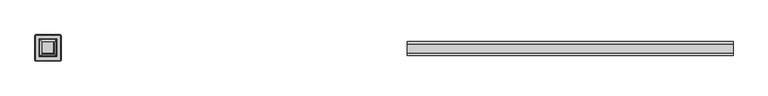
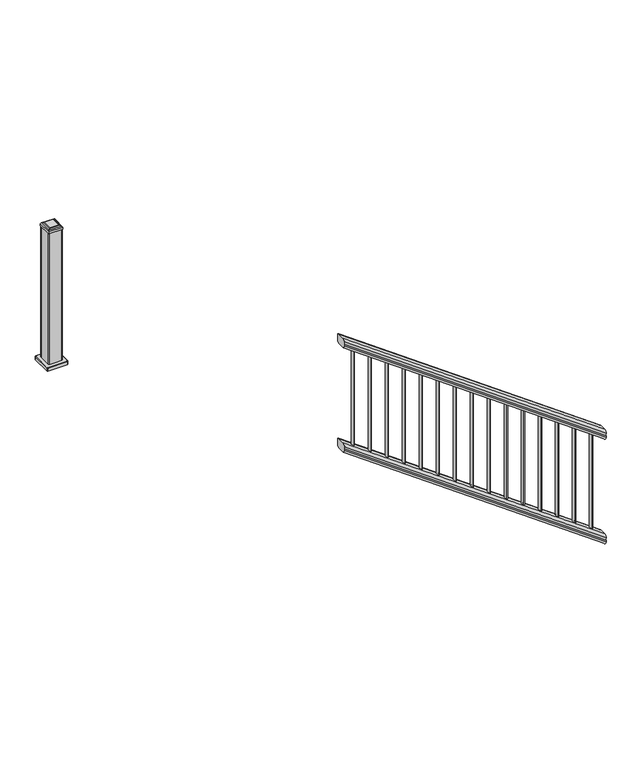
"""IFC4 building model written with IfcOpenShell, lengths in millimetres: railing geometry, NewTechWood - Westminister Gray."""

from ifc_helpers import new_model, si_unit, point, frame, frame_2d, origin, place, context, project, spatial, polyline, circle_curve, ellipse_curve, trimmed, segment, composite_curve, outline, extrude, faceted_brep, source, transform, mapped, element, save
from ifc_brep_helpers import plane_surface, cylinder_surface, revolved_surface, advanced_brep


def railing_2653ac28(model_context):
    return source(origin(), model_context, "Body", "SolidModel", [
        advanced_brep(
        [(-12132.4290808, 7792.1266677, 1489.4019141), (-12132.4290808, 7772.9266677, 1489.4019141), (-12132.4290808, 7772.9266677, 785.3019141), (-12132.4290808, 7792.1266677, 785.3019141)],
        [
            (0, 1, ellipse_curve(frame((-12132.4290808, 7782.5266677, 1489.4019141), z_axis=(0.5837829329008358, 0.0, 0.8119097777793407), x_axis=(-0.8119097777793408, 0.0, 0.5837829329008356)), 11.8239739, 9.6)),
            (1, 0, ellipse_curve(frame((-12132.4290808, 7782.5266677, 1489.4019141), z_axis=(0.5837829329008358, 0.0, 0.8119097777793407), x_axis=(-0.8119097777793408, 0.0, 0.5837829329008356)), 11.8239739, 9.6)),
            (2, 3, ellipse_curve(frame((-12132.4290808, 7782.5266677, 785.3019141), z_axis=(-0.5837829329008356, 0.0, -0.8119097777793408), x_axis=(-0.8119097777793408, 0.0, 0.5837829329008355)), 11.8239739, 9.6)),
            (3, 2, ellipse_curve(frame((-12132.4290808, 7782.5266677, 785.3019141), z_axis=(-0.5837829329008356, 0.0, -0.8119097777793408), x_axis=(-0.8119097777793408, 0.0, 0.5837829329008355)), 11.8239739, 9.6)),
            (0, 3),
            (2, 1),
        ],
        [
            plane_surface(frame((-13397.671938, 7532.5266677, 2399.142388), z_axis=(0.5837829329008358, 0.0, 0.8119097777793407), x_axis=(0.0, 1.0, 0.0))),
            plane_surface(frame((-11568.671938, 7532.5266677, 379.9467782), z_axis=(-0.5837829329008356, 0.0, -0.8119097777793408), x_axis=(0.0, 1.0, 0.0))),
            cylinder_surface(frame((-12132.4290808, 7782.5266677, 882.4945831), z_axis=(0.0, 0.0, 1.0), x_axis=(0.0, -1.0, 0.0)), 9.6),
        ],
        [
            (0, [[1, 2]]),
            (1, [[3, 4]]),
            (2, [[5, -3, 6, -1]]),
            (2, [[-5, -2, -6, -4]]),
        ],
    ),
        advanced_brep(
        [(-12249.3433665, 7792.1266677, 1573.4661371), (-12249.3433665, 7772.9266677, 1573.4661371), (-12249.3433665, 7772.9266677, 869.3661371), (-12249.3433665, 7792.1266677, 869.3661371)],
        [
            (0, 1, ellipse_curve(frame((-12249.3433665, 7782.5266677, 1573.4661371), z_axis=(0.5837829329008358, 0.0, 0.8119097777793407), x_axis=(-0.8119097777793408, 0.0, 0.5837829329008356)), 11.8239739, 9.6)),
            (1, 0, ellipse_curve(frame((-12249.3433665, 7782.5266677, 1573.4661371), z_axis=(0.5837829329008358, 0.0, 0.8119097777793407), x_axis=(-0.8119097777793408, 0.0, 0.5837829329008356)), 11.8239739, 9.6)),
            (2, 3, ellipse_curve(frame((-12249.3433665, 7782.5266677, 869.3661371), z_axis=(-0.5837829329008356, 0.0, -0.8119097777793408), x_axis=(-0.8119097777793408, 0.0, 0.5837829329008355)), 11.8239739, 9.6)),
            (3, 2, ellipse_curve(frame((-12249.3433665, 7782.5266677, 869.3661371), z_axis=(-0.5837829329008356, 0.0, -0.8119097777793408), x_axis=(-0.8119097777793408, 0.0, 0.5837829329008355)), 11.8239739, 9.6)),
            (0, 3),
            (2, 1),
        ],
        [
            plane_surface(frame((-13397.671938, 7532.5266677, 2399.142388), z_axis=(0.5837829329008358, 0.0, 0.8119097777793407), x_axis=(0.0, 1.0, 0.0))),
            plane_surface(frame((-11568.671938, 7532.5266677, 379.9467782), z_axis=(-0.5837829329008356, 0.0, -0.8119097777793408), x_axis=(0.0, 1.0, 0.0))),
            cylinder_surface(frame((-12249.3433665, 7782.5266677, 882.4945831), z_axis=(0.0, 0.0, 1.0), x_axis=(0.0, -1.0, 0.0)), 9.6),
        ],
        [
            (0, [[1, 2]]),
            (1, [[3, 4]]),
            (2, [[5, -3, 6, -1]]),
            (2, [[-5, -2, -6, -4]]),
        ],
    ),
        advanced_brep(
        [(-12366.2576522, 7792.1266677, 1657.5303601), (-12366.2576522, 7772.9266677, 1657.5303601), (-12366.2576522, 7772.9266677, 953.4303601), (-12366.2576522, 7792.1266677, 953.4303601)],
        [
            (0, 1, ellipse_curve(frame((-12366.2576522, 7782.5266677, 1657.5303601), z_axis=(0.5837829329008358, 0.0, 0.8119097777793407), x_axis=(-0.8119097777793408, 0.0, 0.5837829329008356)), 11.8239739, 9.6)),
            (1, 0, ellipse_curve(frame((-12366.2576522, 7782.5266677, 1657.5303601), z_axis=(0.5837829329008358, 0.0, 0.8119097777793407), x_axis=(-0.8119097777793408, 0.0, 0.5837829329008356)), 11.8239739, 9.6)),
            (2, 3, ellipse_curve(frame((-12366.2576522, 7782.5266677, 953.4303601), z_axis=(-0.5837829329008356, 0.0, -0.8119097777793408), x_axis=(-0.8119097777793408, 0.0, 0.5837829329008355)), 11.8239739, 9.6)),
            (3, 2, ellipse_curve(frame((-12366.2576522, 7782.5266677, 953.4303601), z_axis=(-0.5837829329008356, 0.0, -0.8119097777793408), x_axis=(-0.8119097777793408, 0.0, 0.5837829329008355)), 11.8239739, 9.6)),
            (0, 3),
            (2, 1),
        ],
        [
            plane_surface(frame((-13397.671938, 7532.5266677, 2399.142388), z_axis=(0.5837829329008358, 0.0, 0.8119097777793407), x_axis=(0.0, 1.0, 0.0))),
            plane_surface(frame((-11568.671938, 7532.5266677, 379.9467782), z_axis=(-0.5837829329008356, 0.0, -0.8119097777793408), x_axis=(0.0, 1.0, 0.0))),
            cylinder_surface(frame((-12366.2576522, 7782.5266677, 882.4945831), z_axis=(0.0, 0.0, 1.0), x_axis=(0.0, -1.0, 0.0)), 9.6),
        ],
        [
            (0, [[1, 2]]),
            (1, [[3, 4]]),
            (2, [[5, -3, 6, -1]]),
            (2, [[-5, -2, -6, -4]]),
        ],
    ),
        advanced_brep(
        [(-12483.171938, 7792.1266677, 1741.5945831), (-12483.171938, 7772.9266677, 1741.5945831), (-12483.171938, 7772.9266677, 1037.4945831), (-12483.171938, 7792.1266677, 1037.4945831)],
        [
            (0, 1, ellipse_curve(frame((-12483.171938, 7782.5266677, 1741.5945831), z_axis=(0.5837829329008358, 0.0, 0.8119097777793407), x_axis=(-0.8119097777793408, 0.0, 0.5837829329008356)), 11.8239739, 9.6)),
            (1, 0, ellipse_curve(frame((-12483.171938, 7782.5266677, 1741.5945831), z_axis=(0.5837829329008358, 0.0, 0.8119097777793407), x_axis=(-0.8119097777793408, 0.0, 0.5837829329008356)), 11.8239739, 9.6)),
            (2, 3, ellipse_curve(frame((-12483.171938, 7782.5266677, 1037.4945831), z_axis=(-0.5837829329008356, 0.0, -0.8119097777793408), x_axis=(-0.8119097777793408, 0.0, 0.5837829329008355)), 11.8239739, 9.6)),
            (3, 2, ellipse_curve(frame((-12483.171938, 7782.5266677, 1037.4945831), z_axis=(-0.5837829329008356, 0.0, -0.8119097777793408), x_axis=(-0.8119097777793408, 0.0, 0.5837829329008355)), 11.8239739, 9.6)),
            (0, 3),
            (2, 1),
        ],
        [
            plane_surface(frame((-13397.671938, 7532.5266677, 2399.142388), z_axis=(0.5837829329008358, 0.0, 0.8119097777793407), x_axis=(0.0, 1.0, 0.0))),
            plane_surface(frame((-11568.671938, 7532.5266677, 379.9467782), z_axis=(-0.5837829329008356, 0.0, -0.8119097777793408), x_axis=(0.0, 1.0, 0.0))),
            cylinder_surface(frame((-12483.171938, 7782.5266677, 882.4945831), z_axis=(0.0, 0.0, 1.0), x_axis=(0.0, -1.0, 0.0)), 9.6),
        ],
        [
            (0, [[1, 2]]),
            (1, [[3, 4]]),
            (2, [[5, -3, 6, -1]]),
            (2, [[-5, -2, -6, -4]]),
        ],
    ),
        advanced_brep(
        [(-12600.0862237, 7792.1266677, 1825.6588061), (-12600.0862237, 7772.9266677, 1825.6588061), (-12600.0862237, 7772.9266677, 1121.5588061), (-12600.0862237, 7792.1266677, 1121.5588061)],
        [
            (0, 1, ellipse_curve(frame((-12600.0862237, 7782.5266677, 1825.6588061), z_axis=(0.5837829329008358, 0.0, 0.8119097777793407), x_axis=(-0.8119097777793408, 0.0, 0.5837829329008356)), 11.8239739, 9.6)),
            (1, 0, ellipse_curve(frame((-12600.0862237, 7782.5266677, 1825.6588061), z_axis=(0.5837829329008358, 0.0, 0.8119097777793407), x_axis=(-0.8119097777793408, 0.0, 0.5837829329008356)), 11.8239739, 9.6)),
            (2, 3, ellipse_curve(frame((-12600.0862237, 7782.5266677, 1121.5588061), z_axis=(-0.5837829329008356, 0.0, -0.8119097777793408), x_axis=(-0.8119097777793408, 0.0, 0.5837829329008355)), 11.8239739, 9.6)),
            (3, 2, ellipse_curve(frame((-12600.0862237, 7782.5266677, 1121.5588061), z_axis=(-0.5837829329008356, 0.0, -0.8119097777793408), x_axis=(-0.8119097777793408, 0.0, 0.5837829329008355)), 11.8239739, 9.6)),
            (0, 3),
            (2, 1),
        ],
        [
            plane_surface(frame((-13397.671938, 7532.5266677, 2399.142388), z_axis=(0.5837829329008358, 0.0, 0.8119097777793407), x_axis=(0.0, 1.0, 0.0))),
            plane_surface(frame((-11568.671938, 7532.5266677, 379.9467782), z_axis=(-0.5837829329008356, 0.0, -0.8119097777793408), x_axis=(0.0, 1.0, 0.0))),
            cylinder_surface(frame((-12600.0862237, 7782.5266677, 882.4945831), z_axis=(0.0, 0.0, 1.0), x_axis=(0.0, -1.0, 0.0)), 9.6),
        ],
        [
            (0, [[1, 2]]),
            (1, [[3, 4]]),
            (2, [[5, -3, 6, -1]]),
            (2, [[-5, -2, -6, -4]]),
        ],
    ),
        advanced_brep(
        [(-12717.0005094, 7792.1266677, 1909.7230291), (-12717.0005094, 7772.9266677, 1909.7230291), (-12717.0005094, 7772.9266677, 1205.6230291), (-12717.0005094, 7792.1266677, 1205.6230291)],
        [
            (0, 1, ellipse_curve(frame((-12717.0005094, 7782.5266677, 1909.7230291), z_axis=(0.5837829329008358, 0.0, 0.8119097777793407), x_axis=(-0.8119097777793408, 0.0, 0.5837829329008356)), 11.8239739, 9.6)),
            (1, 0, ellipse_curve(frame((-12717.0005094, 7782.5266677, 1909.7230291), z_axis=(0.5837829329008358, 0.0, 0.8119097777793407), x_axis=(-0.8119097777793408, 0.0, 0.5837829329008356)), 11.8239739, 9.6)),
            (2, 3, ellipse_curve(frame((-12717.0005094, 7782.5266677, 1205.6230291), z_axis=(-0.5837829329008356, 0.0, -0.8119097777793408), x_axis=(-0.8119097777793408, 0.0, 0.5837829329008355)), 11.8239739, 9.6)),
            (3, 2, ellipse_curve(frame((-12717.0005094, 7782.5266677, 1205.6230291), z_axis=(-0.5837829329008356, 0.0, -0.8119097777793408), x_axis=(-0.8119097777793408, 0.0, 0.5837829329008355)), 11.8239739, 9.6)),
            (0, 3),
            (2, 1),
        ],
        [
            plane_surface(frame((-13397.671938, 7532.5266677, 2399.142388), z_axis=(0.5837829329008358, 0.0, 0.8119097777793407), x_axis=(0.0, 1.0, 0.0))),
            plane_surface(frame((-11568.671938, 7532.5266677, 379.9467782), z_axis=(-0.5837829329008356, 0.0, -0.8119097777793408), x_axis=(0.0, 1.0, 0.0))),
            cylinder_surface(frame((-12717.0005094, 7782.5266677, 882.4945831), z_axis=(0.0, 0.0, 1.0), x_axis=(0.0, -1.0, 0.0)), 9.6),
        ],
        [
            (0, [[1, 2]]),
            (1, [[3, 4]]),
            (2, [[5, -3, 6, -1]]),
            (2, [[-5, -2, -6, -4]]),
        ],
    ),
        advanced_brep(
        [(-12833.9147951, 7792.1266677, 1993.7872521), (-12833.9147951, 7772.9266677, 1993.7872521), (-12833.9147951, 7772.9266677, 1289.6872521), (-12833.9147951, 7792.1266677, 1289.6872521)],
        [
            (0, 1, ellipse_curve(frame((-12833.9147951, 7782.5266677, 1993.7872521), z_axis=(0.5837829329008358, 0.0, 0.8119097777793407), x_axis=(-0.8119097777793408, 0.0, 0.5837829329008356)), 11.8239739, 9.6)),
            (1, 0, ellipse_curve(frame((-12833.9147951, 7782.5266677, 1993.7872521), z_axis=(0.5837829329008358, 0.0, 0.8119097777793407), x_axis=(-0.8119097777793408, 0.0, 0.5837829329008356)), 11.8239739, 9.6)),
            (2, 3, ellipse_curve(frame((-12833.9147951, 7782.5266677, 1289.6872521), z_axis=(-0.5837829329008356, 0.0, -0.8119097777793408), x_axis=(-0.8119097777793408, 0.0, 0.5837829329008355)), 11.8239739, 9.6)),
            (3, 2, ellipse_curve(frame((-12833.9147951, 7782.5266677, 1289.6872521), z_axis=(-0.5837829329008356, 0.0, -0.8119097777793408), x_axis=(-0.8119097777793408, 0.0, 0.5837829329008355)), 11.8239739, 9.6)),
            (0, 3),
            (2, 1),
        ],
        [
            plane_surface(frame((-13397.671938, 7532.5266677, 2399.142388), z_axis=(0.5837829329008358, 0.0, 0.8119097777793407), x_axis=(0.0, 1.0, 0.0))),
            plane_surface(frame((-11568.671938, 7532.5266677, 379.9467782), z_axis=(-0.5837829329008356, 0.0, -0.8119097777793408), x_axis=(0.0, 1.0, 0.0))),
            cylinder_surface(frame((-12833.9147951, 7782.5266677, 882.4945831), z_axis=(0.0, 0.0, 1.0), x_axis=(0.0, -1.0, 0.0)), 9.6),
        ],
        [
            (0, [[1, 2]]),
            (1, [[3, 4]]),
            (2, [[5, -3, 6, -1]]),
            (2, [[-5, -2, -6, -4]]),
        ],
    ),
        advanced_brep(
        [(-11664.771938, 7792.1266677, 1153.1450221), (-11664.771938, 7772.9266677, 1153.1450221), (-11664.771938, 7772.9266677, 449.0450221), (-11664.771938, 7792.1266677, 449.0450221)],
        [
            (0, 1, ellipse_curve(frame((-11664.771938, 7782.5266677, 1153.1450221), z_axis=(0.5837829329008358, 0.0, 0.8119097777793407), x_axis=(-0.8119097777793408, 0.0, 0.5837829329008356)), 11.8239739, 9.6)),
            (1, 0, ellipse_curve(frame((-11664.771938, 7782.5266677, 1153.1450221), z_axis=(0.5837829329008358, 0.0, 0.8119097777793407), x_axis=(-0.8119097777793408, 0.0, 0.5837829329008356)), 11.8239739, 9.6)),
            (2, 3, ellipse_curve(frame((-11664.771938, 7782.5266677, 449.0450221), z_axis=(-0.5837829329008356, 0.0, -0.8119097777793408), x_axis=(-0.8119097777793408, 0.0, 0.5837829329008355)), 11.8239739, 9.6)),
            (3, 2, ellipse_curve(frame((-11664.771938, 7782.5266677, 449.0450221), z_axis=(-0.5837829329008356, 0.0, -0.8119097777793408), x_axis=(-0.8119097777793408, 0.0, 0.5837829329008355)), 11.8239739, 9.6)),
            (0, 3),
            (2, 1),
        ],
        [
            plane_surface(frame((-13397.671938, 7532.5266677, 2399.142388), z_axis=(0.5837829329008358, 0.0, 0.8119097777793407), x_axis=(0.0, 1.0, 0.0))),
            plane_surface(frame((-11568.671938, 7532.5266677, 379.9467782), z_axis=(-0.5837829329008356, 0.0, -0.8119097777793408), x_axis=(0.0, 1.0, 0.0))),
            cylinder_surface(frame((-11664.771938, 7782.5266677, -433.085344), z_axis=(0.0, 0.0, 1.0), x_axis=(0.0, -1.0, 0.0)), 9.6),
        ],
        [
            (0, [[1, 2]]),
            (1, [[3, 4]]),
            (2, [[5, -3, 6, -1]]),
            (2, [[-5, -2, -6, -4]]),
        ],
    ),
        advanced_brep(
        [(-11781.6862237, 7792.1266677, 1237.2092451), (-11781.6862237, 7772.9266677, 1237.2092451), (-11781.6862237, 7772.9266677, 533.1092451), (-11781.6862237, 7792.1266677, 533.1092451)],
        [
            (0, 1, ellipse_curve(frame((-11781.6862237, 7782.5266677, 1237.2092451), z_axis=(0.5837829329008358, 0.0, 0.8119097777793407), x_axis=(-0.8119097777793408, 0.0, 0.5837829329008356)), 11.8239739, 9.6)),
            (1, 0, ellipse_curve(frame((-11781.6862237, 7782.5266677, 1237.2092451), z_axis=(0.5837829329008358, 0.0, 0.8119097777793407), x_axis=(-0.8119097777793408, 0.0, 0.5837829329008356)), 11.8239739, 9.6)),
            (2, 3, ellipse_curve(frame((-11781.6862237, 7782.5266677, 533.1092451), z_axis=(-0.5837829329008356, 0.0, -0.8119097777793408), x_axis=(-0.8119097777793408, 0.0, 0.5837829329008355)), 11.8239739, 9.6)),
            (3, 2, ellipse_curve(frame((-11781.6862237, 7782.5266677, 533.1092451), z_axis=(-0.5837829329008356, 0.0, -0.8119097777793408), x_axis=(-0.8119097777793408, 0.0, 0.5837829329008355)), 11.8239739, 9.6)),
            (0, 3),
            (2, 1),
        ],
        [
            plane_surface(frame((-13397.671938, 7532.5266677, 2399.142388), z_axis=(0.5837829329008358, 0.0, 0.8119097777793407), x_axis=(0.0, 1.0, 0.0))),
            plane_surface(frame((-11568.671938, 7532.5266677, 379.9467782), z_axis=(-0.5837829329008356, 0.0, -0.8119097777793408), x_axis=(0.0, 1.0, 0.0))),
            cylinder_surface(frame((-11781.6862237, 7782.5266677, 882.4945831), z_axis=(0.0, 0.0, 1.0), x_axis=(0.0, -1.0, 0.0)), 9.6),
        ],
        [
            (0, [[1, 2]]),
            (1, [[3, 4]]),
            (2, [[5, -3, 6, -1]]),
            (2, [[-5, -2, -6, -4]]),
        ],
    ),
        advanced_brep(
        [(-11898.6005094, 7792.1266677, 1321.2734681), (-11898.6005094, 7772.9266677, 1321.2734681), (-11898.6005094, 7772.9266677, 617.1734681), (-11898.6005094, 7792.1266677, 617.1734681)],
        [
            (0, 1, ellipse_curve(frame((-11898.6005094, 7782.5266677, 1321.2734681), z_axis=(0.5837829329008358, 0.0, 0.8119097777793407), x_axis=(-0.8119097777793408, 0.0, 0.5837829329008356)), 11.8239739, 9.6)),
            (1, 0, ellipse_curve(frame((-11898.6005094, 7782.5266677, 1321.2734681), z_axis=(0.5837829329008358, 0.0, 0.8119097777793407), x_axis=(-0.8119097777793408, 0.0, 0.5837829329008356)), 11.8239739, 9.6)),
            (2, 3, ellipse_curve(frame((-11898.6005094, 7782.5266677, 617.1734681), z_axis=(-0.5837829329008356, 0.0, -0.8119097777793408), x_axis=(-0.8119097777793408, 0.0, 0.5837829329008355)), 11.8239739, 9.6)),
            (3, 2, ellipse_curve(frame((-11898.6005094, 7782.5266677, 617.1734681), z_axis=(-0.5837829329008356, 0.0, -0.8119097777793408), x_axis=(-0.8119097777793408, 0.0, 0.5837829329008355)), 11.8239739, 9.6)),
            (0, 3),
            (2, 1),
        ],
        [
            plane_surface(frame((-13397.671938, 7532.5266677, 2399.142388), z_axis=(0.5837829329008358, 0.0, 0.8119097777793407), x_axis=(0.0, 1.0, 0.0))),
            plane_surface(frame((-11568.671938, 7532.5266677, 379.9467782), z_axis=(-0.5837829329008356, 0.0, -0.8119097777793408), x_axis=(0.0, 1.0, 0.0))),
            cylinder_surface(frame((-11898.6005094, 7782.5266677, 882.4945831), z_axis=(0.0, 0.0, 1.0), x_axis=(0.0, -1.0, 0.0)), 9.6),
        ],
        [
            (0, [[1, 2]]),
            (1, [[3, 4]]),
            (2, [[5, -3, 6, -1]]),
            (2, [[-5, -2, -6, -4]]),
        ],
    ),
        advanced_brep(
        [(-12015.5147951, 7792.1266677, 1405.3376911), (-12015.5147951, 7772.9266677, 1405.3376911), (-12015.5147951, 7772.9266677, 701.2376911), (-12015.5147951, 7792.1266677, 701.2376911)],
        [
            (0, 1, ellipse_curve(frame((-12015.5147951, 7782.5266677, 1405.3376911), z_axis=(0.5837829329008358, 0.0, 0.8119097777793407), x_axis=(-0.8119097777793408, 0.0, 0.5837829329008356)), 11.8239739, 9.6)),
            (1, 0, ellipse_curve(frame((-12015.5147951, 7782.5266677, 1405.3376911), z_axis=(0.5837829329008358, 0.0, 0.8119097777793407), x_axis=(-0.8119097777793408, 0.0, 0.5837829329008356)), 11.8239739, 9.6)),
            (2, 3, ellipse_curve(frame((-12015.5147951, 7782.5266677, 701.2376911), z_axis=(-0.5837829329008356, 0.0, -0.8119097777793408), x_axis=(-0.8119097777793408, 0.0, 0.5837829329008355)), 11.8239739, 9.6)),
            (3, 2, ellipse_curve(frame((-12015.5147951, 7782.5266677, 701.2376911), z_axis=(-0.5837829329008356, 0.0, -0.8119097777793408), x_axis=(-0.8119097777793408, 0.0, 0.5837829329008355)), 11.8239739, 9.6)),
            (0, 3),
            (2, 1),
        ],
        [
            plane_surface(frame((-13397.671938, 7532.5266677, 2399.142388), z_axis=(0.5837829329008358, 0.0, 0.8119097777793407), x_axis=(0.0, 1.0, 0.0))),
            plane_surface(frame((-11568.671938, 7532.5266677, 379.9467782), z_axis=(-0.5837829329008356, 0.0, -0.8119097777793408), x_axis=(0.0, 1.0, 0.0))),
            cylinder_surface(frame((-12015.5147951, 7782.5266677, 882.4945831), z_axis=(0.0, 0.0, 1.0), x_axis=(0.0, -1.0, 0.0)), 9.6),
        ],
        [
            (0, [[1, 2]]),
            (1, [[3, 4]]),
            (2, [[5, -3, 6, -1]]),
            (2, [[-5, -2, -6, -4]]),
        ],
    ),
        advanced_brep(
        [(-12950.8290808, 7792.1266677, 2077.8514751), (-12950.8290808, 7772.9266677, 2077.8514751), (-12950.8290808, 7772.9266677, 1373.7514751), (-12950.8290808, 7792.1266677, 1373.7514751)],
        [
            (0, 1, ellipse_curve(frame((-12950.8290808, 7782.5266677, 2077.8514751), z_axis=(0.5837829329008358, 0.0, 0.8119097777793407), x_axis=(-0.8119097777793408, 0.0, 0.5837829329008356)), 11.8239739, 9.6)),
            (1, 0, ellipse_curve(frame((-12950.8290808, 7782.5266677, 2077.8514751), z_axis=(0.5837829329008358, 0.0, 0.8119097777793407), x_axis=(-0.8119097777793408, 0.0, 0.5837829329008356)), 11.8239739, 9.6)),
            (2, 3, ellipse_curve(frame((-12950.8290808, 7782.5266677, 1373.7514751), z_axis=(-0.5837829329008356, 0.0, -0.8119097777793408), x_axis=(-0.8119097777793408, 0.0, 0.5837829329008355)), 11.8239739, 9.6)),
            (3, 2, ellipse_curve(frame((-12950.8290808, 7782.5266677, 1373.7514751), z_axis=(-0.5837829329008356, 0.0, -0.8119097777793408), x_axis=(-0.8119097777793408, 0.0, 0.5837829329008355)), 11.8239739, 9.6)),
            (0, 3),
            (2, 1),
        ],
        [
            plane_surface(frame((-13397.671938, 7532.5266677, 2399.142388), z_axis=(0.5837829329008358, 0.0, 0.8119097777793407), x_axis=(0.0, 1.0, 0.0))),
            plane_surface(frame((-11568.671938, 7532.5266677, 379.9467782), z_axis=(-0.5837829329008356, 0.0, -0.8119097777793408), x_axis=(0.0, 1.0, 0.0))),
            cylinder_surface(frame((-12950.8290808, 7782.5266677, 882.4945831), z_axis=(0.0, 0.0, 1.0), x_axis=(0.0, -1.0, 0.0)), 9.6),
        ],
        [
            (0, [[1, 2]]),
            (1, [[3, 4]]),
            (2, [[5, -3, 6, -1]]),
            (2, [[-5, -2, -6, -4]]),
        ],
    ),
        advanced_brep(
        [(-13067.7433665, 7792.1266677, 2161.9156981), (-13067.7433665, 7772.9266677, 2161.9156981), (-13067.7433665, 7772.9266677, 1457.8156981), (-13067.7433665, 7792.1266677, 1457.8156981)],
        [
            (0, 1, ellipse_curve(frame((-13067.7433665, 7782.5266677, 2161.9156981), z_axis=(0.5837829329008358, 0.0, 0.8119097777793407), x_axis=(-0.8119097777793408, 0.0, 0.5837829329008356)), 11.8239739, 9.6)),
            (1, 0, ellipse_curve(frame((-13067.7433665, 7782.5266677, 2161.9156981), z_axis=(0.5837829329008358, 0.0, 0.8119097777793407), x_axis=(-0.8119097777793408, 0.0, 0.5837829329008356)), 11.8239739, 9.6)),
            (2, 3, ellipse_curve(frame((-13067.7433665, 7782.5266677, 1457.8156981), z_axis=(-0.5837829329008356, 0.0, -0.8119097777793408), x_axis=(-0.8119097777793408, 0.0, 0.5837829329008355)), 11.8239739, 9.6)),
            (3, 2, ellipse_curve(frame((-13067.7433665, 7782.5266677, 1457.8156981), z_axis=(-0.5837829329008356, 0.0, -0.8119097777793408), x_axis=(-0.8119097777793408, 0.0, 0.5837829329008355)), 11.8239739, 9.6)),
            (0, 3),
            (2, 1),
        ],
        [
            plane_surface(frame((-13397.671938, 7532.5266677, 2399.142388), z_axis=(0.5837829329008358, 0.0, 0.8119097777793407), x_axis=(0.0, 1.0, 0.0))),
            plane_surface(frame((-11568.671938, 7532.5266677, 379.9467782), z_axis=(-0.5837829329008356, 0.0, -0.8119097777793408), x_axis=(0.0, 1.0, 0.0))),
            cylinder_surface(frame((-13067.7433665, 7782.5266677, 882.4945831), z_axis=(0.0, 0.0, 1.0), x_axis=(0.0, -1.0, 0.0)), 9.6),
        ],
        [
            (0, [[1, 2]]),
            (1, [[3, 4]]),
            (2, [[5, -3, 6, -1]]),
            (2, [[-5, -2, -6, -4]]),
        ],
    ),
        advanced_brep(
        [(-13184.6576522, 7792.1266677, 2245.9799211), (-13184.6576522, 7772.9266677, 2245.9799211), (-13184.6576522, 7772.9266677, 1541.8799211), (-13184.6576522, 7792.1266677, 1541.8799211)],
        [
            (0, 1, ellipse_curve(frame((-13184.6576522, 7782.5266677, 2245.9799211), z_axis=(0.5837829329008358, 0.0, 0.8119097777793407), x_axis=(-0.8119097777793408, 0.0, 0.5837829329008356)), 11.8239739, 9.6)),
            (1, 0, ellipse_curve(frame((-13184.6576522, 7782.5266677, 2245.9799211), z_axis=(0.5837829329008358, 0.0, 0.8119097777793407), x_axis=(-0.8119097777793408, 0.0, 0.5837829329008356)), 11.8239739, 9.6)),
            (2, 3, ellipse_curve(frame((-13184.6576522, 7782.5266677, 1541.8799211), z_axis=(-0.5837829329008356, 0.0, -0.8119097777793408), x_axis=(-0.8119097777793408, 0.0, 0.5837829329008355)), 11.8239739, 9.6)),
            (3, 2, ellipse_curve(frame((-13184.6576522, 7782.5266677, 1541.8799211), z_axis=(-0.5837829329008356, 0.0, -0.8119097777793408), x_axis=(-0.8119097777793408, 0.0, 0.5837829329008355)), 11.8239739, 9.6)),
            (0, 3),
            (2, 1),
        ],
        [
            plane_surface(frame((-13397.671938, 7532.5266677, 2399.142388), z_axis=(0.5837829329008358, 0.0, 0.8119097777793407), x_axis=(0.0, 1.0, 0.0))),
            plane_surface(frame((-11568.671938, 7532.5266677, 379.9467782), z_axis=(-0.5837829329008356, 0.0, -0.8119097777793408), x_axis=(0.0, 1.0, 0.0))),
            cylinder_surface(frame((-13184.6576522, 7782.5266677, 882.4945831), z_axis=(0.0, 0.0, 1.0), x_axis=(0.0, -1.0, 0.0)), 9.6),
        ],
        [
            (0, [[1, 2]]),
            (1, [[3, 4]]),
            (2, [[5, -3, 6, -1]]),
            (2, [[-5, -2, -6, -4]]),
        ],
    ),
        advanced_brep(
        [(-13301.571938, 7792.1266677, 2330.0441441), (-13301.571938, 7772.9266677, 2330.0441441), (-13301.571938, 7772.9266677, 1625.9441441), (-13301.571938, 7792.1266677, 1625.9441441)],
        [
            (0, 1, ellipse_curve(frame((-13301.571938, 7782.5266677, 2330.0441441), z_axis=(0.5837829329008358, 0.0, 0.8119097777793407), x_axis=(-0.8119097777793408, 0.0, 0.5837829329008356)), 11.8239739, 9.6)),
            (1, 0, ellipse_curve(frame((-13301.571938, 7782.5266677, 2330.0441441), z_axis=(0.5837829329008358, 0.0, 0.8119097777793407), x_axis=(-0.8119097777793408, 0.0, 0.5837829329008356)), 11.8239739, 9.6)),
            (2, 3, ellipse_curve(frame((-13301.571938, 7782.5266677, 1625.9441441), z_axis=(-0.5837829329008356, 0.0, -0.8119097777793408), x_axis=(-0.8119097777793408, 0.0, 0.5837829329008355)), 11.8239739, 9.6)),
            (3, 2, ellipse_curve(frame((-13301.571938, 7782.5266677, 1625.9441441), z_axis=(-0.5837829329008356, 0.0, -0.8119097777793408), x_axis=(-0.8119097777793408, 0.0, 0.5837829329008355)), 11.8239739, 9.6)),
            (0, 3),
            (2, 1),
        ],
        [
            plane_surface(frame((-13397.671938, 7532.5266677, 2399.142388), z_axis=(0.5837829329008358, 0.0, 0.8119097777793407), x_axis=(0.0, 1.0, 0.0))),
            plane_surface(frame((-11568.671938, 7532.5266677, 379.9467782), z_axis=(-0.5837829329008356, 0.0, -0.8119097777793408), x_axis=(0.0, 1.0, 0.0))),
            cylinder_surface(frame((-13301.571938, 7782.5266677, 882.4945831), z_axis=(0.0, 0.0, 1.0), x_axis=(0.0, -1.0, 0.0)), 9.6),
        ],
        [
            (0, [[1, 2]]),
            (1, [[3, 4]]),
            (2, [[5, -3, 6, -1]]),
            (2, [[-5, -2, -6, -4]]),
        ],
    ),
        advanced_brep(
        [(-11583.671938, 7760.3442795, 1088.3233394), (-11583.671938, 7804.7090559, 1088.3233394), (-11583.671938, 7821.448215, 1108.9403582), (-11583.671938, 7821.448215, 1120.7305298), (-11583.671938, 7821.9367338, 1137.4656588), (-11583.671938, 7806.3681285, 1156.6409487), (-11583.671938, 7758.6852069, 1156.6409487), (-11583.671938, 7743.1166016, 1137.4656588), (-11583.671938, 7743.6051203, 1120.7305298), (-11583.671938, 7743.6051203, 1108.9403582), (-13382.671938, 7804.7090559, 2381.8482175), (-13382.671938, 7760.3442795, 2381.8482175), (-13382.671938, 7743.6051203, 2402.4652363), (-13382.671938, 7743.6051203, 2414.2554079), (-13382.671938, 7743.1166016, 2430.9905369), (-13382.671938, 7758.6852069, 2450.1658267), (-13382.671938, 7806.3681285, 2450.1658267), (-13382.671938, 7821.9367338, 2430.9905369), (-13382.671938, 7821.448215, 2414.2554079), (-13382.671938, 7821.448215, 2402.4652363)],
        [
            (0, 1),
            (1, 2, ellipse_curve(frame((-11583.671938, 7804.7090559, 1108.9403582), z_axis=(1.0, 0.0, 0.0), x_axis=(0.0, 0.0, -1.0)), 20.6170188, 16.7391591)),
            (2, 3),
            (3, 4, ellipse_curve(frame((-11583.671938, 7834.3611716, 1128.5370869), z_axis=(-1.0, 0.0, 0.0), x_axis=(0.0, 0.0, 1.0)), 17.7170259, 14.3846265)),
            (4, 5, ellipse_curve(frame((-11583.671938, 7806.3681285, 1137.4656588), z_axis=(1.0, 0.0, 0.0), x_axis=(0.0, 0.0, -1.0)), 19.1752899, 15.5686053)),
            (5, 6),
            (6, 7, ellipse_curve(frame((-11583.671938, 7758.6852069, 1137.4656588), z_axis=(1.0, 0.0, 0.0), x_axis=(0.0, 0.0, -1.0)), 19.1752899, 15.5686053)),
            (7, 8, ellipse_curve(frame((-11583.671938, 7730.6921638, 1128.5370869), z_axis=(-1.0, 0.0, 0.0), x_axis=(0.0, 0.0, 1.0)), 17.7170259, 14.3846265)),
            (8, 9),
            (9, 0, ellipse_curve(frame((-11583.671938, 7760.3442795, 1108.9403582), z_axis=(1.0, 0.0, 0.0), x_axis=(0.0, 0.0, -1.0)), 20.6170188, 16.7391591)),
            (10, 11),
            (11, 12, ellipse_curve(frame((-13382.671938, 7760.3442795, 2402.4652363), z_axis=(-1.0, 0.0, 0.0), x_axis=(0.0, 0.0, -1.0)), 20.6170188, 16.7391591)),
            (12, 13),
            (13, 14, ellipse_curve(frame((-13382.671938, 7730.6921638, 2422.0619649), z_axis=(1.0, 0.0, 0.0), x_axis=(0.0, 0.0, 1.0)), 17.7170259, 14.3846265)),
            (14, 15, ellipse_curve(frame((-13382.671938, 7758.6852069, 2430.9905369), z_axis=(-1.0, 0.0, 0.0), x_axis=(0.0, 0.0, -1.0)), 19.1752899, 15.5686053)),
            (15, 16),
            (16, 17, ellipse_curve(frame((-13382.671938, 7806.3681285, 2430.9905369), z_axis=(-1.0, 0.0, 0.0), x_axis=(0.0, 0.0, -1.0)), 19.1752899, 15.5686053)),
            (17, 18, ellipse_curve(frame((-13382.671938, 7834.3611716, 2422.0619649), z_axis=(1.0, 0.0, 0.0), x_axis=(0.0, 0.0, 1.0)), 17.7170259, 14.3846265)),
            (18, 19),
            (19, 10, ellipse_curve(frame((-13382.671938, 7804.7090559, 2402.4652363), z_axis=(-1.0, 0.0, 0.0), x_axis=(0.0, 0.0, -1.0)), 20.6170188, 16.7391591)),
            (0, 11),
            (10, 1),
            (19, 2),
            (18, 3),
            (17, 4),
            (16, 5),
            (15, 6),
            (14, 7),
            (13, 8),
            (12, 9),
        ],
        [
            plane_surface(frame((-11583.671938, 7656.171935, 1245.6485386), z_axis=(1.0, 0.0, 0.0), x_axis=(0.0, 1.0, 0.0))),
            plane_surface(frame((-13382.671938, 7656.171935, 1607.7404643), z_axis=(-1.0, 0.0, 0.0), x_axis=(0.0, 1.0, 0.0))),
            plane_surface(frame((-11556.6717178, 7760.3442795, 1068.9095226), z_axis=(-0.5837829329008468, 0.0, -0.8119097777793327), x_axis=(-0.8119097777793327, 0.0, 0.5837829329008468))),
            cylinder_surface(frame((-11546.8996824, 7804.7090559, 1082.5002096), z_axis=(0.8119097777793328, 0.0, -0.5837829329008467), x_axis=(-0.5837829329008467, 0.0, -0.8119097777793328)), 16.7391591),
            plane_surface(frame((-11546.8996824, 7821.448215, 1082.5002096), z_axis=(0.0, 1.0, 0.0), x_axis=(-0.8119097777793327, 0.0, 0.5837829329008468))),
            revolved_surface(polyline([(-13399.466936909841, 7834.3611716, 2416.4209529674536), (-11583.67193796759, 7834.3611716, 1110.820061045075)]), (-11537.6112432, 7834.3611716, 1095.4183239), (-0.8119097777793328, 0.0, 0.5837829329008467)),
            cylinder_surface(frame((-11533.3792869, 7806.3681285, 1101.3040161), z_axis=(0.8119097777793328, 0.0, -0.5837829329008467), x_axis=(-0.5837829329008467, 0.0, -0.8119097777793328)), 15.5686053),
            plane_surface(frame((-11524.2906008, 7806.3681285, 1113.944319), z_axis=(0.5837829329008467, 0.0, 0.8119097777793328), x_axis=(-0.8119097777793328, 0.0, 0.5837829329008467))),
            cylinder_surface(frame((-11533.3792869, 7758.6852069, 1101.3040161), z_axis=(0.8119097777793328, 0.0, -0.5837829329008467), x_axis=(-0.5837829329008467, 0.0, -0.8119097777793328)), 15.5686053),
            revolved_surface(polyline([(-13399.466936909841, 7730.6921638, 2416.4209529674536), (-11583.67193796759, 7730.6921638, 1110.820061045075)]), (-11537.6112432, 7730.6921638, 1095.4183239), (-0.8119097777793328, 0.0, 0.5837829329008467)),
            plane_surface(frame((-11541.3113878, 7743.6051203, 1090.2722611), z_axis=(0.0, -1.0, 0.0), x_axis=(-0.8119097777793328, 0.0, 0.5837829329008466))),
            cylinder_surface(frame((-11546.8996824, 7760.3442795, 1082.5002096), z_axis=(0.8119097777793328, 0.0, -0.5837829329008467), x_axis=(-0.5837829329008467, 0.0, -0.8119097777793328)), 16.7391591),
        ],
        [
            (0, [[1, 2, 3, 4, 5, 6, 7, 8, 9, 10]]),
            (1, [[11, 12, 13, 14, 15, 16, 17, 18, 19, 20]]),
            (2, [[21, -11, 22, -1]]),
            (3, [[-22, -20, 23, -2]]),
            (4, [[-23, -19, 24, -3]]),
            (5, [[-24, -18, 25, -4]]),
            (6, [[-25, -17, 26, -5]]),
            (7, [[-26, -16, 27, -6]]),
            (8, [[-27, -15, 28, -7]]),
            (9, [[-28, -14, 29, -8]]),
            (10, [[-29, -13, 30, -9]]),
            (11, [[-21, -10, -30, -12]]),
        ],
    ),
        advanced_brep(
        [(-11583.671938, 7760.3442795, 329.3233394), (-11583.671938, 7804.7090559, 329.3233394), (-11583.671938, 7821.448215, 349.9403582), (-11583.671938, 7821.448215, 361.7305298), (-11583.671938, 7821.9367338, 378.4656588), (-11583.671938, 7806.3681285, 397.6409487), (-11583.671938, 7758.6852069, 397.6409487), (-11583.671938, 7743.1166016, 378.4656588), (-11583.671938, 7743.6051203, 361.7305298), (-11583.671938, 7743.6051203, 349.9403582), (-13382.671938, 7804.7090559, 1622.8482175), (-13382.671938, 7760.3442795, 1622.8482175), (-13382.671938, 7743.6051203, 1643.4652363), (-13382.671938, 7743.6051203, 1655.2554079), (-13382.671938, 7743.1166016, 1671.9905369), (-13382.671938, 7758.6852069, 1691.1658267), (-13382.671938, 7806.3681285, 1691.1658267), (-13382.671938, 7821.9367338, 1671.9905369), (-13382.671938, 7821.448215, 1655.2554079), (-13382.671938, 7821.448215, 1643.4652363)],
        [
            (0, 1),
            (1, 2, ellipse_curve(frame((-11583.671938, 7804.7090559, 349.9403582), z_axis=(1.0, 0.0, 0.0), x_axis=(0.0, 0.0, -1.0)), 20.6170188, 16.7391591)),
            (2, 3),
            (3, 4, ellipse_curve(frame((-11583.671938, 7834.3611716, 369.5370869), z_axis=(-1.0, 0.0, 0.0), x_axis=(0.0, 0.0, 1.0)), 17.7170259, 14.3846265)),
            (4, 5, ellipse_curve(frame((-11583.671938, 7806.3681285, 378.4656588), z_axis=(1.0, 0.0, 0.0), x_axis=(0.0, 0.0, -1.0)), 19.1752899, 15.5686053)),
            (5, 6),
            (6, 7, ellipse_curve(frame((-11583.671938, 7758.6852069, 378.4656588), z_axis=(1.0, 0.0, 0.0), x_axis=(0.0, 0.0, -1.0)), 19.1752899, 15.5686053)),
            (7, 8, ellipse_curve(frame((-11583.671938, 7730.6921638, 369.5370869), z_axis=(-1.0, 0.0, 0.0), x_axis=(0.0, 0.0, 1.0)), 17.7170259, 14.3846265)),
            (8, 9),
            (9, 0, ellipse_curve(frame((-11583.671938, 7760.3442795, 349.9403582), z_axis=(1.0, 0.0, 0.0), x_axis=(0.0, 0.0, -1.0)), 20.6170188, 16.7391591)),
            (10, 11),
            (11, 12, ellipse_curve(frame((-13382.671938, 7760.3442795, 1643.4652363), z_axis=(-1.0, 0.0, 0.0), x_axis=(0.0, 0.0, -1.0)), 20.6170188, 16.7391591)),
            (12, 13),
            (13, 14, ellipse_curve(frame((-13382.671938, 7730.6921638, 1663.0619649), z_axis=(1.0, 0.0, 0.0), x_axis=(0.0, 0.0, 1.0)), 17.7170259, 14.3846265)),
            (14, 15, ellipse_curve(frame((-13382.671938, 7758.6852069, 1671.9905369), z_axis=(-1.0, 0.0, 0.0), x_axis=(0.0, 0.0, -1.0)), 19.1752899, 15.5686053)),
            (15, 16),
            (16, 17, ellipse_curve(frame((-13382.671938, 7806.3681285, 1671.9905369), z_axis=(-1.0, 0.0, 0.0), x_axis=(0.0, 0.0, -1.0)), 19.1752899, 15.5686053)),
            (17, 18, ellipse_curve(frame((-13382.671938, 7834.3611716, 1663.0619649), z_axis=(1.0, 0.0, 0.0), x_axis=(0.0, 0.0, 1.0)), 17.7170259, 14.3846265)),
            (18, 19),
            (19, 10, ellipse_curve(frame((-13382.671938, 7804.7090559, 1643.4652363), z_axis=(-1.0, 0.0, 0.0), x_axis=(0.0, 0.0, -1.0)), 20.6170188, 16.7391591)),
            (0, 11),
            (10, 1),
            (19, 2),
            (18, 3),
            (17, 4),
            (16, 5),
            (15, 6),
            (14, 7),
            (13, 8),
            (12, 9),
        ],
        [
            plane_surface(frame((-11583.671938, 7656.171935, 1245.6485386), z_axis=(1.0, 0.0, 0.0), x_axis=(0.0, 1.0, 0.0))),
            plane_surface(frame((-13382.671938, 7656.171935, 1607.7404643), z_axis=(-1.0, 0.0, 0.0), x_axis=(0.0, 1.0, 0.0))),
            plane_surface(frame((-11559.1526372, 7760.3442795, 311.6933641), z_axis=(-0.5837829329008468, 0.0, -0.8119097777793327), x_axis=(-0.8119097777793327, 0.0, 0.5837829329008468))),
            cylinder_surface(frame((-11549.3806018, 7804.7090559, 325.2840511), z_axis=(0.8119097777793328, 0.0, -0.5837829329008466), x_axis=(-0.5837829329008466, 0.0, -0.8119097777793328)), 16.7391591),
            plane_surface(frame((-11549.3806018, 7821.448215, 325.2840511), z_axis=(0.0, 1.0000000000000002, 0.0), x_axis=(-0.8119097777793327, 0.0, 0.5837829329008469))),
            revolved_surface(polyline([(-13399.466936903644, 7834.3611716, 1657.420952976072), (-11583.671937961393, 7834.3611716, 351.8200610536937)]), (-11540.0921625, 7834.3611716, 338.2021654), (-0.8119097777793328, 0.0, 0.5837829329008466)),
            cylinder_surface(frame((-11535.8602063, 7806.3681285, 344.0878576), z_axis=(0.8119097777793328, 0.0, -0.5837829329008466), x_axis=(-0.5837829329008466, 0.0, -0.8119097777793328)), 15.5686053),
            plane_surface(frame((-11526.7715202, 7806.3681285, 356.7281605), z_axis=(0.5837829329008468, 0.0, 0.8119097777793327), x_axis=(-0.8119097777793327, 0.0, 0.5837829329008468))),
            cylinder_surface(frame((-11535.8602063, 7758.6852069, 344.0878576), z_axis=(0.8119097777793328, 0.0, -0.5837829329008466), x_axis=(-0.5837829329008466, 0.0, -0.8119097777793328)), 15.5686053),
            revolved_surface(polyline([(-13399.466936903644, 7730.6921638, 1657.420952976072), (-11583.671937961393, 7730.6921638, 351.8200610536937)]), (-11540.0921625, 7730.6921638, 338.2021654), (-0.8119097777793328, 0.0, 0.5837829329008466)),
            plane_surface(frame((-11543.7923072, 7743.6051203, 333.0561026), z_axis=(0.0, -1.0, 0.0), x_axis=(-0.8119097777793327, 0.0, 0.5837829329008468))),
            cylinder_surface(frame((-11549.3806018, 7760.3442795, 325.2840511), z_axis=(0.8119097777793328, 0.0, -0.5837829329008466), x_axis=(-0.5837829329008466, 0.0, -0.8119097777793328)), 16.7391591),
        ],
        [
            (0, [[1, 2, 3, 4, 5, 6, 7, 8, 9, 10]]),
            (1, [[11, 12, 13, 14, 15, 16, 17, 18, 19, 20]]),
            (2, [[21, -11, 22, -1]]),
            (3, [[-22, -20, 23, -2]]),
            (4, [[-23, -19, 24, -3]]),
            (5, [[-24, -18, 25, -4]]),
            (6, [[-25, -17, 26, -5]]),
            (7, [[-26, -16, 27, -6]]),
            (8, [[-27, -15, 28, -7]]),
            (9, [[-28, -14, 29, -8]]),
            (10, [[-29, -13, 30, -9]]),
            (11, [[-21, -10, -30, -12]]),
        ],
    ),
        advanced_brep(
        [(-15435.6939692, 7856.3863921, 2979.5108338), (-15438.8535366, 7853.2268247, 2979.5108338), (-15438.8535366, 7718.5468247, 2979.5108338), (-15435.6939692, 7715.3872573, 2979.5108338), (-15301.0139692, 7715.3872573, 2979.5108338), (-15297.8544018, 7718.5468247, 2979.5108338), (-15297.8544018, 7853.2268247, 2979.5108338), (-15301.0139692, 7856.3863921, 2979.5108338), (-15295.8539692, 7718.5468247, 2957.0108338), (-15301.0139692, 7713.3868247, 2957.0108338), (-15435.6939692, 7713.3868247, 2957.0108338), (-15440.8539692, 7718.5468247, 2957.0108338), (-15440.8539692, 7853.2268247, 2957.0108338), (-15435.6939692, 7858.3868247, 2957.0108338), (-15301.0139692, 7858.3868247, 2957.0108338), (-15295.8539692, 7853.2268247, 2957.0108338), (-15295.8539692, 7853.2268247, 2977.5104012), (-15295.8539692, 7718.5468247, 2977.5104012), (-15301.0139692, 7858.3868247, 2977.5104029), (-15435.6939692, 7858.3868247, 2977.5104029), (-15440.8539692, 7853.2268247, 2977.5104029), (-15440.8539692, 7718.5468247, 2977.5104012), (-15435.6939692, 7713.3868247, 2977.510403), (-15301.0139692, 7713.3868247, 2977.5104012)],
        [
            (0, 1, circle_curve(frame((-15435.6939692, 7853.2268247, 2979.5108338), z_axis=(0.0, 0.0, 1.0), x_axis=(0.0, 1.0, 0.0)), 3.1595674)),
            (1, 2),
            (2, 3, circle_curve(frame((-15435.6939692, 7718.5468247, 2979.5108338), z_axis=(0.0, 0.0, 1.0), x_axis=(-1.0, 0.0, 0.0)), 3.1595674)),
            (3, 4),
            (4, 5, circle_curve(frame((-15301.0139692, 7718.5468247, 2979.5108338), z_axis=(0.0, 0.0, 1.0), x_axis=(0.0, -1.0, 0.0)), 3.1595674)),
            (5, 6),
            (6, 7, circle_curve(frame((-15301.0139692, 7853.2268247, 2979.5108338), z_axis=(0.0, 0.0, 1.0), x_axis=(1.0, 0.0, 0.0)), 3.1595674)),
            (7, 0),
            (8, 9, circle_curve(frame((-15301.0139692, 7718.5468247, 2957.0108338), z_axis=(0.0, 0.0, -1.0), x_axis=(0.0, -1.0, 0.0)), 5.16)),
            (9, 10),
            (10, 11, circle_curve(frame((-15435.6939692, 7718.5468247, 2957.0108338), z_axis=(0.0, 0.0, -1.0), x_axis=(0.0, -1.0, 0.0)), 5.16)),
            (11, 12),
            (12, 13, circle_curve(frame((-15435.6939692, 7853.2268247, 2957.0108338), z_axis=(0.0, 0.0, -1.0), x_axis=(0.0, -1.0, 0.0)), 5.16)),
            (13, 14),
            (14, 15, circle_curve(frame((-15301.0139692, 7853.2268247, 2957.0108338), z_axis=(0.0, 0.0, -1.0), x_axis=(0.0, -1.0, 0.0)), 5.16)),
            (15, 8),
            (15, 16),
            (16, 17),
            (17, 8),
            (14, 18),
            (18, 16, circle_curve(frame((-15301.0139692, 7853.2268247, 2977.5104012), z_axis=(0.0, 0.0, -1.0), x_axis=(0.0, -1.0, 0.0)), 5.16)),
            (13, 19),
            (19, 18),
            (12, 20),
            (20, 19, circle_curve(frame((-15435.6939692, 7853.2268247, 2977.5104012), z_axis=(0.0, 0.0, -1.0), x_axis=(0.0, -1.0, 0.0)), 5.16)),
            (11, 21),
            (21, 20),
            (10, 22),
            (22, 21, circle_curve(frame((-15435.6939692, 7718.5468247, 2977.5104012), z_axis=(0.0, 0.0, -1.0), x_axis=(0.0, -1.0, 0.0)), 5.16)),
            (9, 23),
            (23, 22),
            (17, 23, circle_curve(frame((-15301.0139692, 7718.5468247, 2977.5104012), z_axis=(0.0, 0.0, -1.0), x_axis=(0.0, -1.0, 0.0)), 5.16)),
            (20, 1, circle_curve(frame((-15438.8535366, 7853.2268247, 2977.5104012), z_axis=(0.0, 1.0, 0.0), x_axis=(1.0, 0.0, 0.0)), 2.0004326)),
            (0, 19, circle_curve(frame((-15435.6939692, 7856.3863921, 2977.5104012), z_axis=(-1.0, 0.0, 0.0), x_axis=(0.0, -1.0, 0.0)), 2.0004326)),
            (21, 2, circle_curve(frame((-15438.8535366, 7718.5468247, 2977.5104012), z_axis=(0.0, 1.0, 0.0), x_axis=(1.0, 0.0, 0.0)), 2.0004326)),
            (22, 3, circle_curve(frame((-15435.6939692, 7715.3872573, 2977.5104012), z_axis=(-1.0, 0.0, 0.0), x_axis=(0.0, 1.0, 0.0)), 2.0004326)),
            (23, 4, circle_curve(frame((-15301.0139692, 7715.3872573, 2977.5104012), z_axis=(-1.0, 0.0, 0.0), x_axis=(0.0, 1.0, 0.0)), 2.0004326)),
            (17, 5, circle_curve(frame((-15297.8544018, 7718.5468247, 2977.5104012), z_axis=(0.0, -1.0, 0.0), x_axis=(-1.0, 0.0, 0.0)), 2.0004326)),
            (16, 6, circle_curve(frame((-15297.8544018, 7853.2268247, 2977.5104012), z_axis=(0.0, -1.0, 0.0), x_axis=(-1.0, 0.0, 0.0)), 2.0004326)),
            (18, 7, circle_curve(frame((-15301.0139692, 7856.3863921, 2977.5104012), z_axis=(1.0, 0.0, 0.0), x_axis=(0.0, -1.0, 0.0)), 2.0004326)),
        ],
        [
            plane_surface(frame((-15295.8539692, 7745.3228185, 2979.5108338), z_axis=(0.0, 0.0, 1.0), x_axis=(0.0, 1.0, 0.0))),
            plane_surface(frame((-15295.8539692, 7745.3228185, 2957.0108338), z_axis=(0.0, 0.0, -1.0), x_axis=(0.0, -1.0, 0.0))),
            plane_surface(frame((-15295.8539692, 7718.5468247, 2979.5108338), z_axis=(1.0, 0.0, 0.0), x_axis=(0.0, 0.0, -1.0))),
            cylinder_surface(frame((-15301.0139692, 7853.2268247, 2957.0108338), z_axis=(0.0, 0.0, 1.0), x_axis=(0.0, -1.0, 0.0)), 5.16),
            plane_surface(frame((-15301.0139692, 7858.3868247, 2979.5108338), z_axis=(0.0, 1.0, 0.0), x_axis=(0.0, 0.0, -1.0))),
            cylinder_surface(frame((-15435.6939692, 7853.2268247, 2957.0108338), z_axis=(0.0, 0.0, 1.0), x_axis=(0.0, -1.0, 0.0)), 5.16),
            plane_surface(frame((-15440.8539692, 7853.2268247, 2979.5108338), z_axis=(-1.0, 0.0, 0.0), x_axis=(0.0, 0.0, -1.0))),
            cylinder_surface(frame((-15435.6939692, 7718.5468247, 2957.0108338), z_axis=(0.0, 0.0, 1.0), x_axis=(0.0, -1.0, 0.0)), 5.16),
            plane_surface(frame((-15435.6939692, 7713.3868247, 2979.5108338), z_axis=(0.0, -1.0, 0.0), x_axis=(0.0, 0.0, -1.0))),
            cylinder_surface(frame((-15301.0139692, 7718.5468247, 2957.0108338), z_axis=(0.0, 0.0, 1.0), x_axis=(0.0, -1.0, 0.0)), 5.16),
            revolved_surface(trimmed(ellipse_curve(frame((-15435.6939692, 7856.3863921, 2977.5104012), z_axis=(1.0, 0.0, 0.0), x_axis=(0.0, -1.0, 0.0)), 2.0004326, 2.0004326), [point((-15435.6939692, 7858.3868247, 2977.5104012))], [point((-15435.6939692, 7856.3863921, 2979.5108338))], True, "CARTESIAN"), (-15435.6939692, 7853.2268247, 2979.5108338), (0.0, 0.0, 1.0)),
            cylinder_surface(frame((-15438.8535366, 7853.2268247, 2977.5104012), z_axis=(0.0, -1.0, 0.0), x_axis=(1.0, 0.0, 0.0)), 2.0004326),
            revolved_surface(trimmed(ellipse_curve(frame((-15438.8535366, 7718.5468247, 2977.5104012), z_axis=(0.0, 1.0, 0.0), x_axis=(1.0, 0.0, 0.0)), 2.0004326, 2.0004326), [point((-15440.8539692, 7718.5468247, 2977.5104012))], [point((-15438.8535366, 7718.5468247, 2979.5108338))], True, "CARTESIAN"), (-15435.6939692, 7718.5468247, 2979.5108338), (0.0, 0.0, 1.0)),
            cylinder_surface(frame((-15435.6939692, 7715.3872573, 2977.5104012), z_axis=(1.0, 0.0, 0.0), x_axis=(0.0, 1.0, 0.0)), 2.0004326),
            revolved_surface(trimmed(ellipse_curve(frame((-15301.0139692, 7715.3872573, 2977.5104012), z_axis=(-1.0, 0.0, 0.0), x_axis=(0.0, 1.0, 0.0)), 2.0004326, 2.0004326), [point((-15301.0139692, 7713.3868247, 2977.5104012))], [point((-15301.0139692, 7715.3872573, 2979.5108338))], True, "CARTESIAN"), (-15301.0139692, 7718.5468247, 2979.5108338), (0.0, 0.0, 1.0)),
            cylinder_surface(frame((-15297.8544018, 7718.5468247, 2977.5104012), z_axis=(0.0, 1.0, 0.0), x_axis=(-1.0, 0.0, 0.0)), 2.0004326),
            revolved_surface(trimmed(ellipse_curve(frame((-15297.8544018, 7853.2268247, 2977.5104012), z_axis=(0.0, -1.0, 0.0), x_axis=(-1.0, 0.0, 0.0)), 2.0004326, 2.0004326), [point((-15295.8539692, 7853.2268247, 2977.5104012))], [point((-15297.8544018, 7853.2268247, 2979.5108338))], True, "CARTESIAN"), (-15301.0139692, 7853.2268247, 2979.5108338), (0.0, 0.0, 1.0)),
            cylinder_surface(frame((-15301.0139692, 7856.3863921, 2977.5104012), z_axis=(-1.0, 0.0, 0.0), x_axis=(0.0, -1.0, 0.0)), 2.0004326),
        ],
        [
            (0, [[1, 2, 3, 4, 5, 6, 7, 8]]),
            (1, [[9, 10, 11, 12, 13, 14, 15, 16]]),
            (2, [[-16, 17, 18, 19]]),
            (3, [[-15, 20, 21, -17]]),
            (4, [[-14, 22, 23, -20]]),
            (5, [[-13, 24, 25, -22]]),
            (6, [[-12, 26, 27, -24]]),
            (7, [[-11, 28, 29, -26]]),
            (8, [[-10, 30, 31, -28]]),
            (9, [[-9, -19, 32, -30]]),
            (10, [[33, -1, 34, -25]]),
            (11, [[-33, -27, 35, -2]]),
            (12, [[-35, -29, 36, -3]]),
            (13, [[-36, -31, 37, -4]]),
            (14, [[-37, -32, 38, -5]]),
            (15, [[-38, -18, 39, -6]]),
            (16, [[-39, -21, 40, -7]]),
            (17, [[-34, -8, -40, -23]]),
        ],
    ),
        faceted_brep([(-15417.4039692, 7834.9368247, 3947.7805328), (-15417.4039692, 7834.9368247, 3933.1505328), (-15417.4039692, 7736.8368247, 3933.1505328), (-15417.4039692, 7736.8368247, 3947.7805328), (-15413.3712931, 7830.9041486, 3953.0933874), (-15413.3712931, 7740.8695008, 3953.0933874), (-15404.1461855, 7821.6790409, 3957.606733), (-15404.1461855, 7750.0946084, 3957.606733), (-15399.6494181, 7817.1822735, 3961.4108338), (-15399.6494181, 7754.5913758, 3961.4108338), (-15319.3039692, 7736.8368247, 3933.1505328), (-15319.3039692, 7736.8368247, 3947.7805328), (-15323.3366453, 7740.8695008, 3953.0933874), (-15332.561753, 7750.0946084, 3957.606733), (-15337.0585204, 7754.5913758, 3961.4108338), (-15319.3039692, 7834.9368247, 3933.1505328), (-15319.3039692, 7834.9368247, 3947.7805328), (-15323.3366453, 7830.9041486, 3953.0933874), (-15332.561753, 7821.6790409, 3957.606733), (-15337.0585204, 7817.1822735, 3961.4108338)], [[[0, 1, 2, 3]], [[4, 0, 3, 5]], [[6, 4, 5, 7]], [[8, 6, 7, 9]], [[3, 2, 10, 11]], [[5, 3, 11, 12]], [[7, 5, 12, 13]], [[9, 7, 13, 14]], [[11, 10, 15, 16]], [[12, 11, 16, 17]], [[13, 12, 17, 18]], [[14, 13, 18, 19]], [[16, 15, 1, 0]], [[17, 16, 0, 4]], [[18, 17, 4, 6]], [[19, 18, 6, 8]], [[9, 14, 19, 8]], [[1, 15, 10, 2]]]),
        extrude(outline(composite_curve([segment(trimmed(circle_curve(frame_2d((-15324.7639692, 7829.4768247)), 3.61), [point((-15324.7639692, 7833.0868247))], [point((-15321.1539692, 7829.4768247))], False, "CARTESIAN"), True, "CONTINUOUS"), segment(polyline([(-15321.1539692, 7829.4768247), (-15321.1539692, 7742.2968247)]), True, "CONTINUOUS"), segment(trimmed(circle_curve(frame_2d((-15324.7639692, 7742.2968247)), 3.61), [point((-15321.1539692, 7742.2968247))], [point((-15324.7639692, 7738.6868247))], False, "CARTESIAN"), True, "CONTINUOUS"), segment(polyline([(-15324.7639692, 7738.6868247), (-15411.9439692, 7738.6868247)]), True, "CONTINUOUS"), segment(trimmed(circle_curve(frame_2d((-15411.9439692, 7742.2968247)), 3.61), [point((-15411.9439692, 7738.6868247))], [point((-15415.5539692, 7742.2968247))], False, "CARTESIAN"), True, "CONTINUOUS"), segment(polyline([(-15415.5539692, 7742.2968247), (-15415.5539692, 7829.4768247)]), True, "CONTINUOUS"), segment(trimmed(circle_curve(frame_2d((-15411.9439692, 7829.4768247)), 3.61), [point((-15415.5539692, 7829.4768247))], [point((-15411.9439692, 7833.0868247))], False, "CARTESIAN"), True, "CONTINUOUS"), segment(polyline([(-15411.9439692, 7833.0868247), (-15324.7639692, 7833.0868247)]), True, "CONTINUOUS")], self_intersect=False)), frame((0.0, 0.0, 2979.5108338), z_axis=(0.0, 0.0, 1.0), x_axis=(1.0, 0.0, 0.0)), (0.0, 0.0, 1.0), 953.639699),
    ])


if __name__ == "__main__":
    model = new_model("IFC4")
    model_context = context("Model", 3, world=origin())
    ifc_project = project(units=[si_unit("LENGTHUNIT", "METRE", prefix="MILLI")], contexts=[model_context])
    site = spatial("IfcSite", under=ifc_project)
    building = spatial("IfcBuilding", under=site)
    placement = place(None, origin())
    railing_shape = railing_2653ac28(model_context)
    element("IfcRailing", 1, ObjectType="NewTechWood - Westminister Gray", at=placement, inside=building, context=model_context, shape_type="MappedRepresentation", body=[
        mapped(railing_shape, transform((0.0, 0.0, 0.0), x_axis=(1.0, 0.0, 0.0), y_axis=(0.0, 1.0, 0.0), z_axis=(0.0, 0.0, 1.0))),
    ])
    save(model, "model.ifc")
